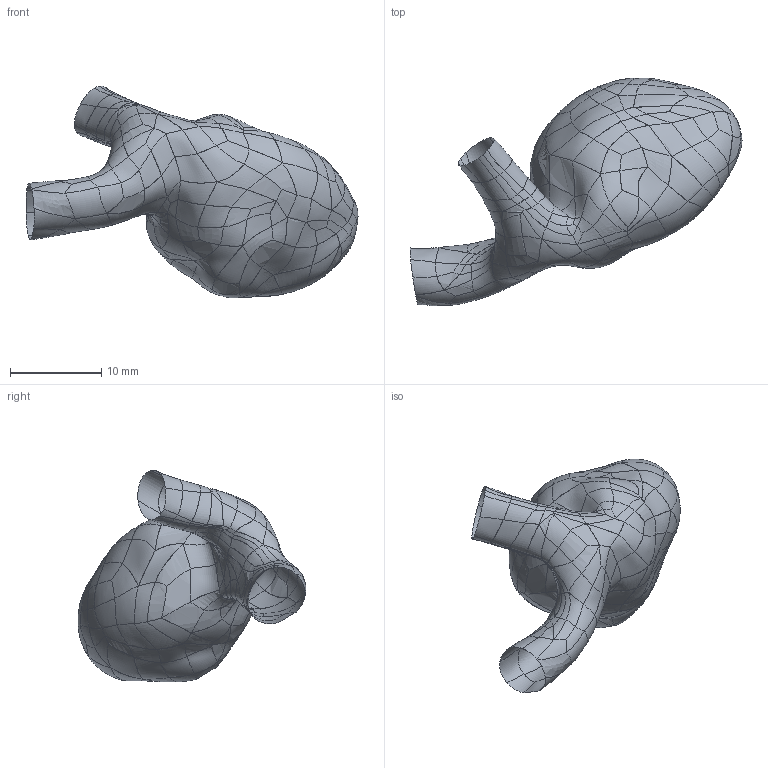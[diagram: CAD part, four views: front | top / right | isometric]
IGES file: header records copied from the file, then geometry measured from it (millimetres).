
Start section: Geomagic Studio
Global section: file name: C:\Users\user\Desktop\DICOM?\Chicherina\ChicherinaStart.igs; native system: Geomagic -- Studio 2014; preprocessor: 2014; author: <unspecified>; organization: <unspecified>; date: 20200420.131431; units: millimetre
Bounding box: 36.36 x 24.95 x 23.22 mm (x, y, z)
Surface area: 1817.5 mm2 (no closed solid volume)
Topology: 0 solids, 0 shells, 352 faces, 1408 edges, 1408 vertices
Faces by surface type: bspline 352
